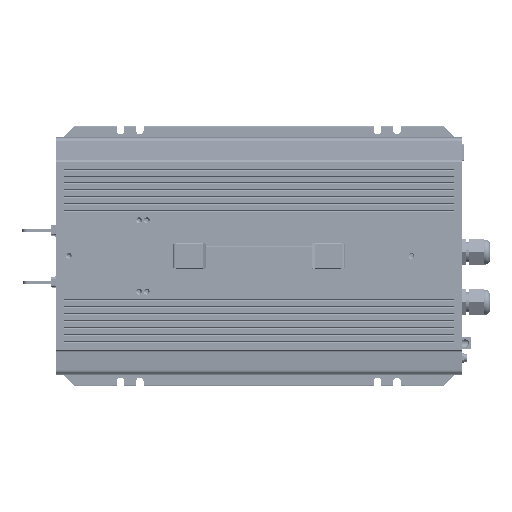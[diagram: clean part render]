
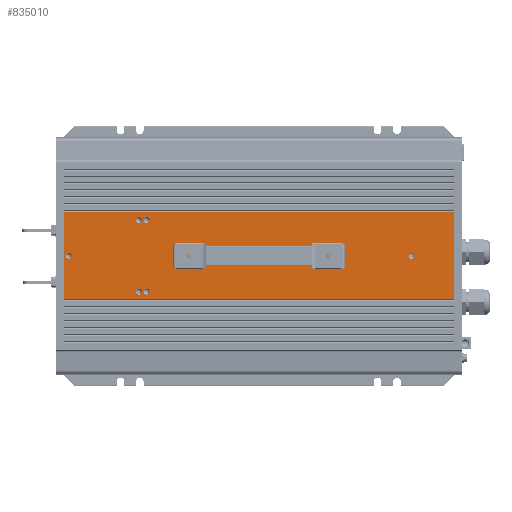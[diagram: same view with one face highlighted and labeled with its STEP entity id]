
A CAD part, top view. The second image highlights one B-rep face of the part: STEP entity #835010.
In plain terms, the highlighted planar face has unit normal (0, 0, 1) as drawn and (0, 1, 0) by its records, which use the part's own axes.
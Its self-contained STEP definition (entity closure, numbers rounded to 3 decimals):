
#814620=CARTESIAN_POINT('',(2078.449,98.104,-63.1));
#814630=VERTEX_POINT('',#814620);
#814660=CARTESIAN_POINT('',(2078.449,98.104,-63.1));
#814670=DIRECTION('',(-1.,0.,0.));
#814680=VECTOR('',#814670,1.);
#814690=LINE('',#814660,#814680);
#814700=CARTESIAN_POINT('',(1988.299,98.104,-63.1));
#814710=VERTEX_POINT('',#814700);
#814720=EDGE_CURVE('',#814630,#814710,#814690,.T.);
#823510=CARTESIAN_POINT('',(1988.299,98.104,340.9));
#823520=VERTEX_POINT('',#823510);
#823550=CARTESIAN_POINT('',(1988.299,98.104,340.9));
#823560=DIRECTION('',(1.,0.,0.));
#823570=VECTOR('',#823560,1.);
#823580=LINE('',#823550,#823570);
#823590=CARTESIAN_POINT('',(2078.449,98.104,340.9));
#823600=VERTEX_POINT('',#823590);
#823610=EDGE_CURVE('',#823520,#823600,#823580,.T.);
#833240=CARTESIAN_POINT('',(1993.284,98.104,14.949)
);
#833250=VERTEX_POINT('',#833240);
#833280=CARTESIAN_POINT('',(1996.284,98.104,14.949)
);
#833290=DIRECTION('',(0.,-1.,-0.));
#833300=DIRECTION('',(-0.257,0.,-0.966));
#833310=AXIS2_PLACEMENT_3D('',#833280,#833290,#833300);
#833320=CIRCLE('',#833310,3.);
#833330=CARTESIAN_POINT('',(1999.284,98.104,14.949)
);
#833340=VERTEX_POINT('',#833330);
#833350=EDGE_CURVE('',#833250,#833340,#833320,.T.);
#833700=CARTESIAN_POINT('',(2028.721,98.104,122.9));
#833710=DIRECTION('',(0.,-1.,0.));
#833720=DIRECTION('',(1.,0.,0.));
#833730=AXIS2_PLACEMENT_3D('',#833700,#833710,#833720);
#833740=PLANE('',#833730);
#833750=ORIENTED_EDGE('',*,*,#814720,.T.);
#833760=CARTESIAN_POINT('',(2078.449,98.104,340.9));
#833770=DIRECTION('',(0.,0.,-1.));
#833780=VECTOR('',#833770,1.);
#833790=LINE('',#833760,#833780);
#833800=EDGE_CURVE('',#823600,#814630,#833790,.T.);
#833810=ORIENTED_EDGE('',*,*,#833800,.T.);
#833820=ORIENTED_EDGE('',*,*,#823610,.T.);
#833830=CARTESIAN_POINT('',(1988.299,98.104,-63.1));
#833840=DIRECTION('',(0.,0.,1.));
#833850=VECTOR('',#833840,1.);
#833860=LINE('',#833830,#833850);
#833870=EDGE_CURVE('',#814710,#823520,#833860,.T.);
#833880=ORIENTED_EDGE('',*,*,#833870,.T.);
#833890=EDGE_LOOP('',(#833880,#833820,#833810,#833750));
#833900=FACE_OUTER_BOUND('',#833890,.T.);
#833910=CARTESIAN_POINT('',(2033.376,98.104,210.9));
#833920=DIRECTION('',(0.,-1.,0.));
#833930=DIRECTION('',(0.,0.,1.));
#833940=AXIS2_PLACEMENT_3D('',#833910,#833920,#833930);
#833950=CIRCLE('',#833940,1.6);
#833960=CARTESIAN_POINT('',(2033.376,98.104,209.3));
#833970=VERTEX_POINT('',#833960);
#833980=CARTESIAN_POINT('',(2033.376,98.104,212.5));
#833990=VERTEX_POINT('',#833980);
#834000=EDGE_CURVE('',#833970,#833990,#833950,.T.);
#834010=ORIENTED_EDGE('',*,*,#834000,.T.);
#834020=EDGE_CURVE('',#833990,#833970,#833950,.T.);
#834030=ORIENTED_EDGE('',*,*,#834020,.T.);
#834040=EDGE_LOOP('',(#834030,#834010));
#834050=FACE_BOUND('',#834040,.T.);
#834060=CARTESIAN_POINT('',(1996.284,98.104,22.949)
);
#834070=DIRECTION('',(0.,-1.,-0.));
#834080=DIRECTION('',(0.,0.,-1.));
#834090=AXIS2_PLACEMENT_3D('',#834060,#834070,#834080);
#834100=CIRCLE('',#834090,3.);
#834110=CARTESIAN_POINT('',(1993.284,98.104,22.949)
);
#834120=VERTEX_POINT('',#834110);
#834130=CARTESIAN_POINT('',(1999.284,98.104,22.949)
);
#834140=VERTEX_POINT('',#834130);
#834150=EDGE_CURVE('',#834120,#834140,#834100,.T.);
#834160=ORIENTED_EDGE('',*,*,#834150,.T.);
#834170=EDGE_CURVE('',#834140,#834120,#834100,.T.);
#834180=ORIENTED_EDGE('',*,*,#834170,.T.);
#834190=EDGE_LOOP('',(#834180,#834160));
#834200=FACE_BOUND('',#834190,.T.);
#834210=CARTESIAN_POINT('',(2033.374,98.104,296.9));
#834220=DIRECTION('',(0.,-1.,0.));
#834230=DIRECTION('',(1.,0.,0.));
#834240=AXIS2_PLACEMENT_3D('',#834210,#834220,#834230);
#834250=CIRCLE('',#834240,3.);
#834260=CARTESIAN_POINT('',(2036.374,98.104,296.9));
#834270=VERTEX_POINT('',#834260);
#834280=CARTESIAN_POINT('',(2030.374,98.104,296.9));
#834290=VERTEX_POINT('',#834280);
#834300=EDGE_CURVE('',#834270,#834290,#834250,.T.);
#834310=ORIENTED_EDGE('',*,*,#834300,.T.);
#834320=EDGE_CURVE('',#834290,#834270,#834250,.T.);
#834330=ORIENTED_EDGE('',*,*,#834320,.T.);
#834340=EDGE_LOOP('',(#834330,#834310));
#834350=FACE_BOUND('',#834340,.T.);
#834360=CARTESIAN_POINT('',(2033.376,98.104,
-57.6));
#834370=DIRECTION('',(0.,-1.,0.));
#834380=DIRECTION('',(1.,0.,0.));
#834390=AXIS2_PLACEMENT_3D('',#834360,#834370,#834380);
#834400=CIRCLE('',#834390,3.);
#834410=CARTESIAN_POINT('',(2030.376,98.104,
-57.6));
#834420=VERTEX_POINT('',#834410);
#834430=CARTESIAN_POINT('',(2036.376,98.104,
-57.6));
#834440=VERTEX_POINT('',#834430);
#834450=EDGE_CURVE('',#834420,#834440,#834400,.T.);
#834460=ORIENTED_EDGE('',*,*,#834450,.T.);
#834470=EDGE_CURVE('',#834440,#834420,#834400,.T.);
#834480=ORIENTED_EDGE('',*,*,#834470,.T.);
#834490=EDGE_LOOP('',(#834480,#834460));
#834500=FACE_BOUND('',#834490,.T.);
#834510=CARTESIAN_POINT('',(2070.318,98.104,14.949));
#834520=DIRECTION('',(0.,-1.,-0.));
#834530=DIRECTION('',(1.,0.,0.));
#834540=AXIS2_PLACEMENT_3D('',#834510,#834520,#834530);
#834550=CIRCLE('',#834540,3.);
#834560=CARTESIAN_POINT('',(2073.318,98.104,14.949));
#834570=VERTEX_POINT('',#834560);
#834580=CARTESIAN_POINT('',(2067.318,98.104,14.949));
#834590=VERTEX_POINT('',#834580);
#834600=EDGE_CURVE('',#834570,#834590,#834550,.T.);
#834610=ORIENTED_EDGE('',*,*,#834600,.T.);
#834620=EDGE_CURVE('',#834590,#834570,#834550,.T.);
#834630=ORIENTED_EDGE('',*,*,#834620,.T.);
#834640=EDGE_LOOP('',(#834630,#834610));
#834650=FACE_BOUND('',#834640,.T.);
#834660=ORIENTED_EDGE('',*,*,#833350,.T.);
#834670=EDGE_CURVE('',#833340,#833250,#833320,.T.);
#834680=ORIENTED_EDGE('',*,*,#834670,.T.);
#834690=EDGE_LOOP('',(#834680,#834660));
#834700=FACE_BOUND('',#834690,.T.);
#834710=CARTESIAN_POINT('',(2070.318,98.104,22.949));
#834720=DIRECTION('',(0.,-1.,0.));
#834730=DIRECTION('',(1.,0.,0.));
#834740=AXIS2_PLACEMENT_3D('',#834710,#834720,#834730);
#834750=CIRCLE('',#834740,3.);
#834760=CARTESIAN_POINT('',(2073.318,98.104,22.949));
#834770=VERTEX_POINT('',#834760);
#834780=CARTESIAN_POINT('',(2067.318,98.104,22.949));
#834790=VERTEX_POINT('',#834780);
#834800=EDGE_CURVE('',#834770,#834790,#834750,.T.);
#834810=ORIENTED_EDGE('',*,*,#834800,.T.);
#834820=EDGE_CURVE('',#834790,#834770,#834750,.T.);
#834830=ORIENTED_EDGE('',*,*,#834820,.T.);
#834840=EDGE_LOOP('',(#834830,#834810));
#834850=FACE_BOUND('',#834840,.T.);
#834860=CARTESIAN_POINT('',(2033.376,98.104,66.9));
#834870=DIRECTION('',(0.,-1.,0.));
#834880=DIRECTION('',(0.,0.,1.));
#834890=AXIS2_PLACEMENT_3D('',#834860,#834870,#834880);
#834900=CIRCLE('',#834890,1.6);
#834910=CARTESIAN_POINT('',(2033.376,98.104,65.3));
#834920=VERTEX_POINT('',#834910);
#834930=CARTESIAN_POINT('',(2033.376,98.104,68.5));
#834940=VERTEX_POINT('',#834930);
#834950=EDGE_CURVE('',#834920,#834940,#834900,.T.);
#834960=ORIENTED_EDGE('',*,*,#834950,.T.);
#834970=EDGE_CURVE('',#834940,#834920,#834900,.T.);
#834980=ORIENTED_EDGE('',*,*,#834970,.T.);
#834990=EDGE_LOOP('',(#834980,#834960));
#835000=FACE_BOUND('',#834990,.T.);
#835010=ADVANCED_FACE('',(#833900,#834050,#834200,#834350,#834500,
#834650,#834700,#834850,#835000),#833740,.F.);
